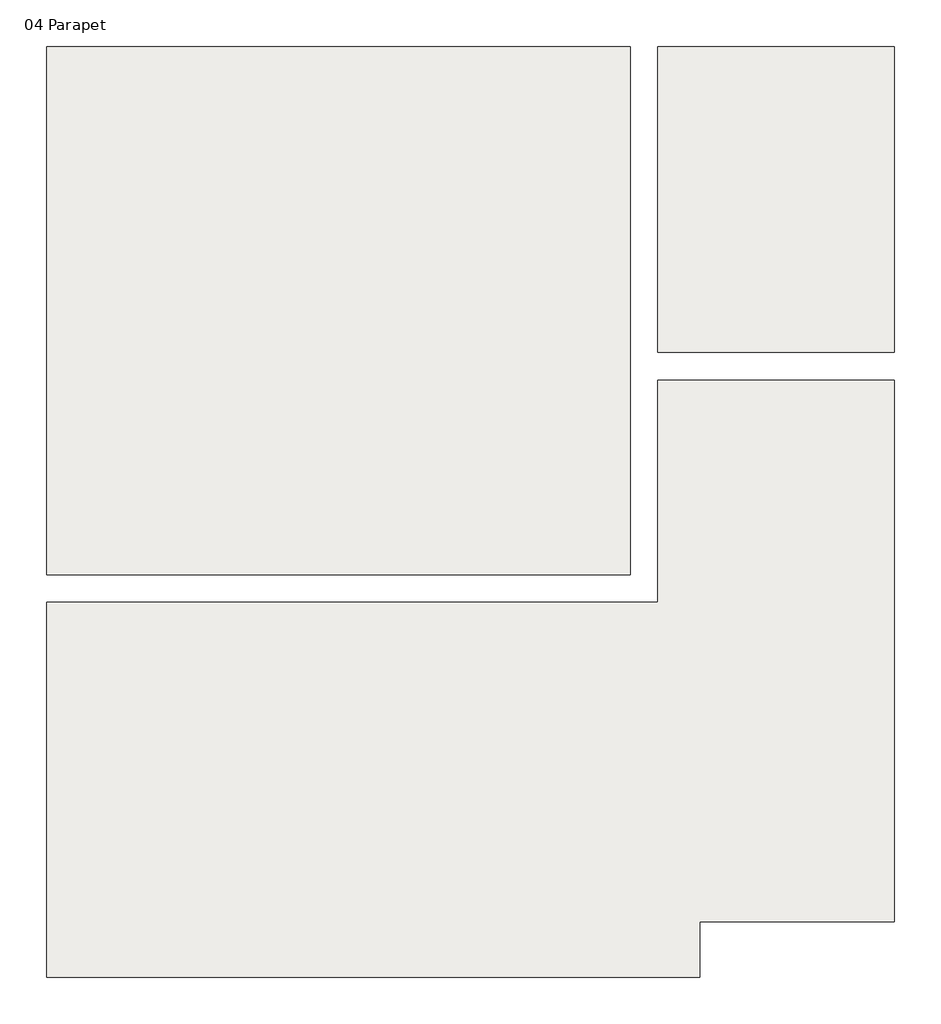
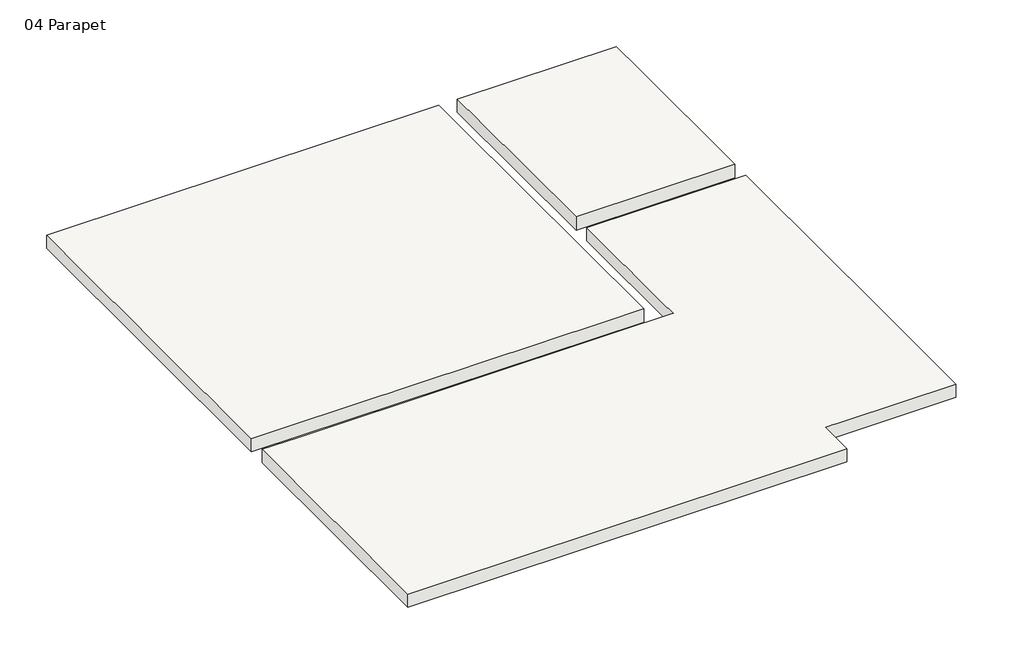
# One storey: 3 slabs.
"""IFC4 building model written with IfcOpenShell, lengths in millimetres."""

from ifc_helpers import new_model, si_unit, origin, place, context, project, spatial, faceted_brep, element, save

model = new_model("IFC4")

# Units and contexts
model_context = context("Model", 3, world=origin())
ifc_project = project(units=[si_unit("LENGTHUNIT", "METRE", prefix="MILLI")], contexts=[model_context])

# Site, building, storey
site = spatial("IfcSite", under=ifc_project)
building = spatial("IfcBuilding", under=site)
storey = spatial("IfcBuildingStorey", under=building, Name="04 Parapet", Elevation=10500.0)

# Slabs
placement = place(None, origin())
element("IfcSlab", 1, ObjectType="Generic 15 cm", at=placement, inside=storey, context=model_context, shape_type="Brep", body=[
    faceted_brep([(-5601.9262989, 8044.9958345, 10350.0), (-1401.9262989, 8044.9958345, 10350.0), (-1401.9262989, 4244.9958345, 10350.0), (-5601.9262989, 4244.9958345, 10350.0), (-5601.9262989, 8044.9958345, 10500.0), (-5601.9262989, 7644.9958345, 10500.0), (-5601.9262989, 4244.9958345, 10500.0), (-5201.9262989, 4244.9958345, 10500.0), (-1801.9262989, 4244.9958345, 10500.0), (-1401.9262989, 4244.9958345, 10500.0), (-1401.9262989, 7644.9958345, 10500.0), (-1401.9262989, 8044.9958345, 10500.0)], [[[0, 1, 2, 3]], [[4, 5, 6, 7, 8, 9, 10, 11]], [[1, 0, 4, 11]], [[2, 1, 11, 10, 9]], [[3, 2, 9, 8, 7, 6]], [[0, 3, 6, 5, 4]]]),
])
element("IfcSlab", 2, ObjectType="Generic 15 cm", at=placement, inside=storey, context=model_context, shape_type="Brep", body=[
    faceted_brep([(-1201.9262989, 8044.9958345, 10350.0), (498.0737011, 8044.9958345, 10350.0), (498.0737011, 5844.9958345, 10350.0), (-1201.9262989, 5844.9958345, 10350.0), (-1201.9262989, 8044.9958345, 10500.0), (-1201.9262989, 7644.9958345, 10500.0), (-1201.9262989, 5844.9958345, 10500.0), (498.0737011, 5844.9958345, 10500.0), (498.0737011, 7644.9958345, 10500.0), (498.0737011, 8044.9958345, 10500.0)], [[[0, 1, 2, 3]], [[4, 5, 6, 7, 8, 9]], [[1, 0, 4, 9]], [[2, 1, 9, 8, 7]], [[3, 2, 7, 6]], [[0, 3, 6, 5, 4]]]),
])
element("IfcSlab", 3, ObjectType="Generic 15 cm", at=placement, inside=storey, context=model_context, shape_type="Brep", body=[
    faceted_brep([(-5601.9262989, 1344.9958345, 10350.0), (-5601.9262989, 4044.9958345, 10350.0), (-1201.9262989, 4044.9958345, 10350.0), (-1201.9262989, 5644.9958345, 10350.0), (498.0737011, 5644.9958345, 10350.0), (498.0737011, 1744.9958345, 10350.0), (-901.9262989, 1744.9958345, 10350.0), (-901.9262989, 1344.9958345, 10350.0), (-5601.9262989, 1344.9958345, 10500.0), (-5201.9262989, 1344.9958345, 10500.0), (-2759.8125017, 1344.9958345, 10500.0), (-2159.8125017, 1344.9958345, 10500.0), (-901.9262989, 1344.9958345, 10500.0), (-901.9262989, 1744.9958345, 10500.0), (-701.9262989, 1744.9958345, 10500.0), (498.0737011, 1744.9958345, 10500.0), (498.0737011, 3444.9958345, 10500.0), (498.0737011, 4044.9958345, 10500.0), (498.0737011, 5644.9958345, 10500.0), (-1201.9262989, 5644.9958345, 10500.0), (-1201.9262989, 4244.9958345, 10500.0), (-1201.9262989, 4044.9958345, 10500.0), (-1801.9262989, 4044.9958345, 10500.0), (-5201.9262989, 4044.9958345, 10500.0), (-5601.9262989, 4044.9958345, 10500.0)], [[[0, 1, 2, 3, 4, 5, 6, 7]], [[8, 9, 10, 11, 12, 13, 14, 15, 16, 17, 18, 19, 20, 21, 22, 23, 24]], [[1, 0, 8, 24]], [[2, 1, 24, 23, 22, 21]], [[3, 2, 21, 20, 19]], [[4, 3, 19, 18]], [[5, 4, 18, 17, 16, 15]], [[6, 5, 15, 14, 13]], [[7, 6, 13, 12]], [[0, 7, 12, 11, 10, 9, 8]]]),
])

save(model, "model.ifc")
